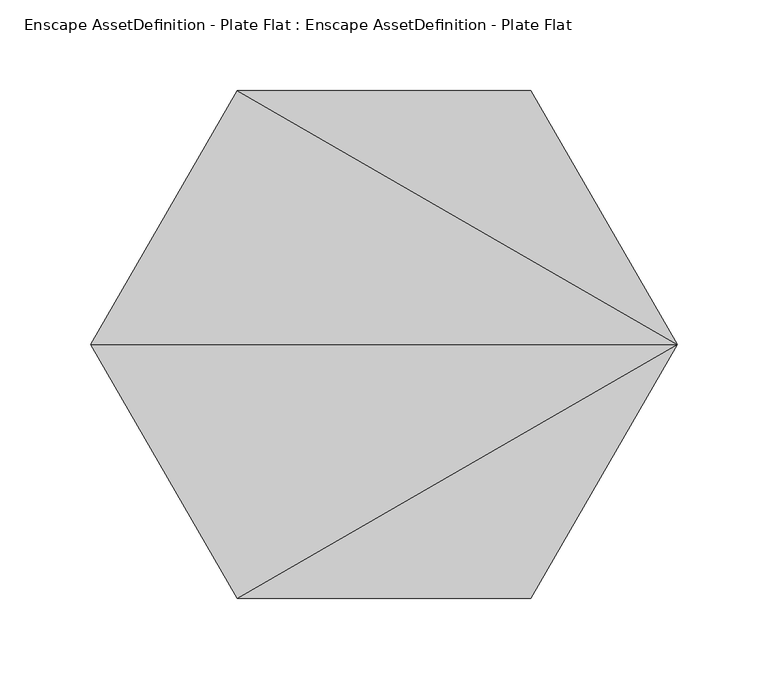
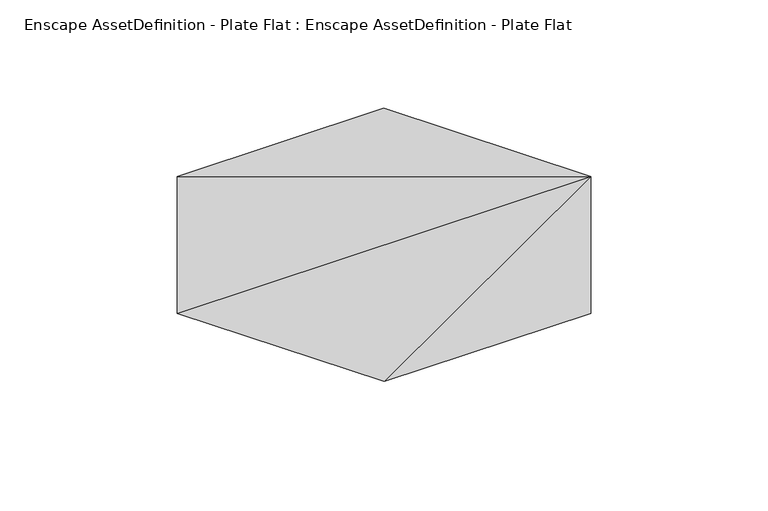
"""IFC4 building model written with IfcOpenShell, lengths in millimetres: geographic element geometry, Enscape AssetDefinition - Plate Flat : Enscape AssetDefinition - Plate Flat."""

from ifc_helpers import new_model, si_unit, origin, place, context, project, spatial, faceted_brep, source, transform, mapped, element, save


def enscape_assetdefinition_plate_flat_enscape_assetdefinition_addf1cdb(model_context):
    return source(origin(), model_context, "Body", "Brep", [
        faceted_brep([(80.5513263, 139.5198405, 17.5000001), (99.673219, 0.0, 0.0), (49.8366095, 86.3201618, 0.0), (161.103636, 0.0, 17.5000001), (-80.5513263, 139.5198405, 17.5000001), (-49.8366095, 86.3201618, 0.0), (-161.103636, 0.0, 17.5000001), (-99.673219, 0.0, 0.0), (-80.5513263, -139.5198405, 17.5000001), (-49.8366095, -86.3201618, 0.0), (80.5513263, -139.5198405, 17.5000001), (49.8366095, -86.3201618, 0.0)], [[[0, 1, 2]], [[1, 0, 3]], [[4, 2, 5]], [[2, 4, 0]], [[6, 5, 7]], [[5, 6, 4]], [[8, 7, 9]], [[7, 8, 6]], [[10, 9, 11]], [[9, 10, 8]], [[3, 11, 1]], [[11, 3, 10]], [[9, 2, 1]], [[9, 1, 11]], [[9, 7, 5]], [[9, 5, 2]], [[3, 0, 4]], [[3, 4, 6]], [[3, 6, 8]], [[3, 8, 10]]]),
    ])


if __name__ == "__main__":
    model = new_model("IFC4")
    model_context = context("Model", 3, world=origin())
    ifc_project = project(units=[si_unit("LENGTHUNIT", "METRE", prefix="MILLI")], contexts=[model_context])
    site = spatial("IfcSite", under=ifc_project)
    building = spatial("IfcBuilding", under=site)
    placement = place(None, origin())
    enscape_assetdefinition_plate_flat_enscape_assetdefinition_shape = enscape_assetdefinition_plate_flat_enscape_assetdefinition_addf1cdb(model_context)
    element("IfcGeographicElement", 1, ObjectType="Enscape AssetDefinition - Plate Flat : Enscape AssetDefinition - Plate Flat", at=placement, inside=building, context=model_context, shape_type="MappedRepresentation", body=[
        mapped(enscape_assetdefinition_plate_flat_enscape_assetdefinition_shape, transform((0.0, 0.0, 0.0), x_axis=(1.0, 0.0, 0.0), y_axis=(0.0, 1.0, 0.0), z_axis=(0.0, 0.0, 1.0))),
    ])
    save(model, "model.ifc")
